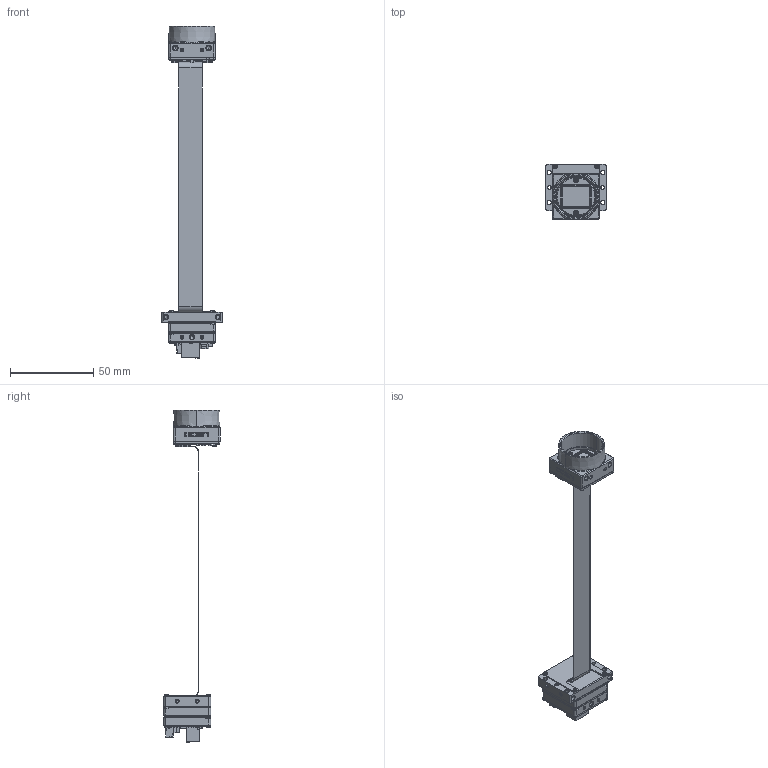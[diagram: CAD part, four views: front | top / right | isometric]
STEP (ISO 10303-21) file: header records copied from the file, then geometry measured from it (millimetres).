
FILE_DESCRIPTION (( 'STEP AP203' ), '1' );
FILE_NAME ('108-526-A_IX.STEP', '2024-05-07T07:00:51', ( '' ), ( '' ), 'SwSTEP 2.0', 'SolidWorks 2021', '' );
FILE_SCHEMA (( 'CONFIG_CONTROL_DESIGN' ));
Products named in the file (1): 108-526-A_IX
Bounding box: 36 x 33.65 x 199.19 mm (x, y, z)
Volume: 13780.1 mm3; surface area: 29891.8 mm2
Topology: 226 solids, 226 shells, 8984 faces, 22940 edges, 14052 vertices
Faces by surface type: plane 5398, cylinder 2348, bspline 661, cone 368, torus 137, sphere 72
Entity records: 273158 total; most frequent: CARTESIAN_POINT 59956, ORIENTED_EDGE 44680, DIRECTION 43209, EDGE_CURVE 22340, LINE 16493, VECTOR 16493, VERTEX_POINT 14042, AXIS2_PLACEMENT_3D 13358
